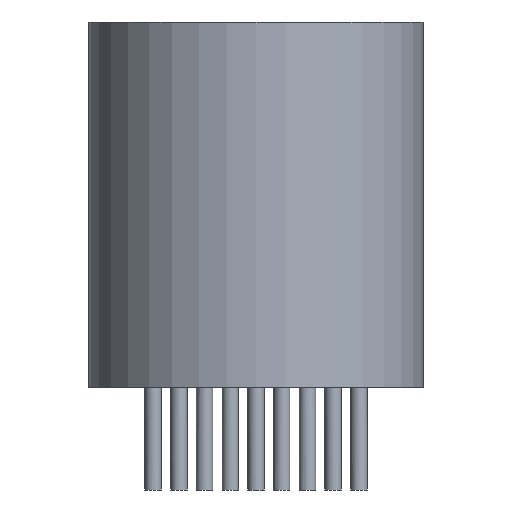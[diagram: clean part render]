
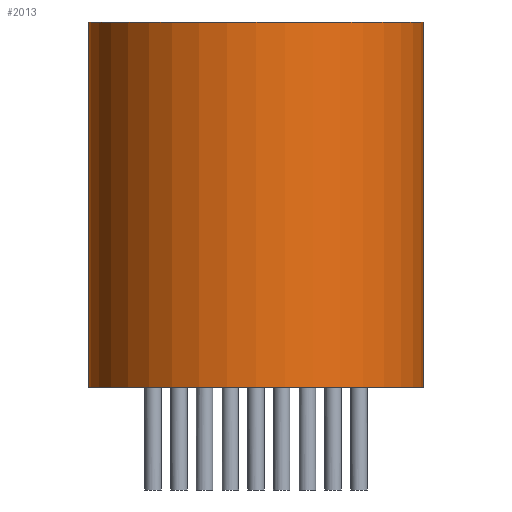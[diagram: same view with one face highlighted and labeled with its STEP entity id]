
A CAD part, front view. The second image highlights one B-rep face of the part: STEP entity #2013.
In plain terms, the highlighted cylindrical face has radius 4.128 mm (diameter 8.255 mm), a partial arc.
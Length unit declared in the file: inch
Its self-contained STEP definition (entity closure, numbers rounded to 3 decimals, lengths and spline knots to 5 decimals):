
#1914 = EDGE_CURVE ( 'NONE', #3271, #3228, #7244, .T. ) ;
#1953 = EDGE_LOOP ( 'NONE', ( #1954, #1973, #2001, #2005 ) ) ;
#1954 = ORIENTED_EDGE ( 'NONE', *, *, #3095, .F. ) ;
#1973 = ORIENTED_EDGE ( 'NONE', *, *, #1976, .F. ) ;
#1976 = EDGE_CURVE ( 'NONE', #3304, #3181, #7184, .T. ) ;
#2001 = ORIENTED_EDGE ( 'NONE', *, *, #3264, .T. ) ;
#2005 = ORIENTED_EDGE ( 'NONE', *, *, #1914, .T. ) ;
#2013 = ADVANCED_FACE ( 'NONE', ( #7216 ), #7230, .T. ) ;
#3095 = EDGE_CURVE ( 'NONE', #3181, #3228, #9068, .T. ) ;
#3181 = VERTEX_POINT ( 'NONE', #9230 ) ;
#3228 = VERTEX_POINT ( 'NONE', #9314 ) ;
#3264 = EDGE_CURVE ( 'NONE', #3304, #3271, #9259, .T. ) ;
#3271 = VERTEX_POINT ( 'NONE', #9274 ) ;
#3304 = VERTEX_POINT ( 'NONE', #9627 ) ;
#7153 = DIRECTION ( 'NONE',  ( -1., 0., 0. ) ) ;
#7172 = DIRECTION ( 'NONE',  ( 1., 0., 0. ) ) ;
#7173 = DIRECTION ( 'NONE',  ( 0., 0., 1. ) ) ;
#7174 = AXIS2_PLACEMENT_3D ( 'NONE', #7306, #7173, #7172 ) ;
#7184 = CIRCLE ( 'NONE', #7174, 0.1625 ) ;
#7211 = DIRECTION ( 'NONE',  ( 1., 0., 0. ) ) ;
#7212 = DIRECTION ( 'NONE',  ( 0., 0., 1. ) ) ;
#7213 = AXIS2_PLACEMENT_3D ( 'NONE', #7229, #7212, #7211 ) ;
#7216 = FACE_OUTER_BOUND ( 'NONE', #1953, .T. ) ;
#7229 = CARTESIAN_POINT ( 'NONE',  ( 0., 0., 0. ) ) ;
#7230 = CYLINDRICAL_SURFACE ( 'NONE', #7237, 0.1625 ) ;
#7237 = AXIS2_PLACEMENT_3D ( 'NONE', #7240, #7239, #7153 ) ;
#7239 = DIRECTION ( 'NONE',  ( 0., 0., -1. ) ) ;
#7240 = CARTESIAN_POINT ( 'NONE',  ( 0., 0., 0.355 ) ) ;
#7244 = CIRCLE ( 'NONE', #7213, 0.1625 ) ;
#7306 = CARTESIAN_POINT ( 'NONE',  ( 0., 0., 0.355 ) ) ;
#9062 = DIRECTION ( 'NONE',  ( 0., 0., -1. ) ) ;
#9063 = VECTOR ( 'NONE', #9062, 39.37008 ) ;
#9067 = CARTESIAN_POINT ( 'NONE',  ( 0.1625, 0., 0.355 ) ) ;
#9068 = LINE ( 'NONE', #9067, #9063 ) ;
#9230 = CARTESIAN_POINT ( 'NONE',  ( 0.1625, 0., 0.355 ) ) ;
#9255 = DIRECTION ( 'NONE',  ( 0., 0., -1. ) ) ;
#9256 = VECTOR ( 'NONE', #9255, 39.37008 ) ;
#9258 = CARTESIAN_POINT ( 'NONE',  ( -0.1625, 0., 0.355 ) ) ;
#9259 = LINE ( 'NONE', #9258, #9256 ) ;
#9274 = CARTESIAN_POINT ( 'NONE',  ( -0.1625, 0., 0. ) ) ;
#9314 = CARTESIAN_POINT ( 'NONE',  ( 0.1625, 0., 0. ) ) ;
#9627 = CARTESIAN_POINT ( 'NONE',  ( -0.1625, 0., 0.355 ) ) ;
